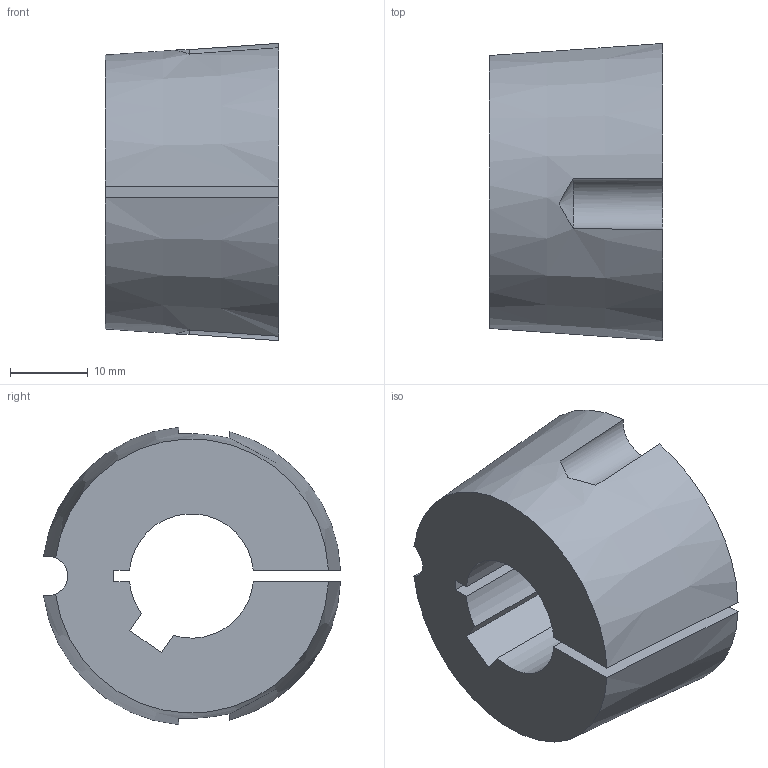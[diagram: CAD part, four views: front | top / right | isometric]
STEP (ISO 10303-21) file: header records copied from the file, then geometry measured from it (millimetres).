
FILE_DESCRIPTION( ( 'STEP AP203' ), '1' );
FILE_NAME( 'D:/export/antriebselemente/spannbuchsen_und_spannsaetze/taper-spannbuchsen_1008_bis_5050/taper-spannbuchsen_62250216Isometric_23.stp', '2018-12-11T11:10:58', ( '' ), ( '' ), ' ', 'PARTsolutions', ' ' );
FILE_SCHEMA( ( 'CONFIG_CONTROL_DESIGN' ) );
Length unit declared in the file: millimetre
Products named in the file (1): _taper-spannbuchsen_62250216
Bounding box: 22.3 x 38.22 x 38.26 mm (x, y, z)
Volume: 17959.1 mm3; surface area: 6091.2 mm2
Topology: 1 solids, 1 shells, 20 faces, 54 edges, 36 vertices
Faces by surface type: plane 10, cylinder 6, cone 4
Entity records: 736 total; most frequent: CARTESIAN_POINT 187, ORIENTED_EDGE 108, DIRECTION 104, EDGE_CURVE 54, AXIS2_PLACEMENT_3D 39, VERTEX_POINT 36, LINE 26, VECTOR 26
